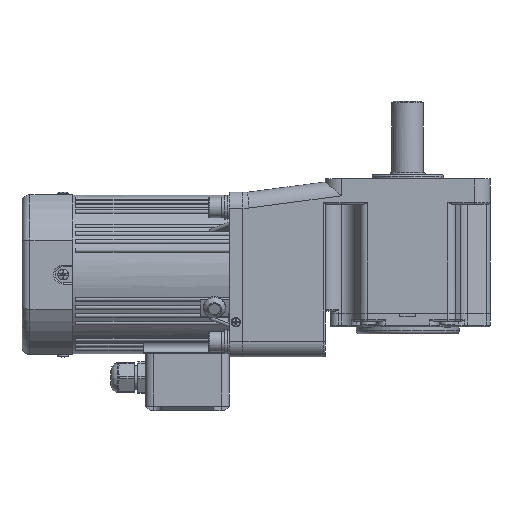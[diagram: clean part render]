
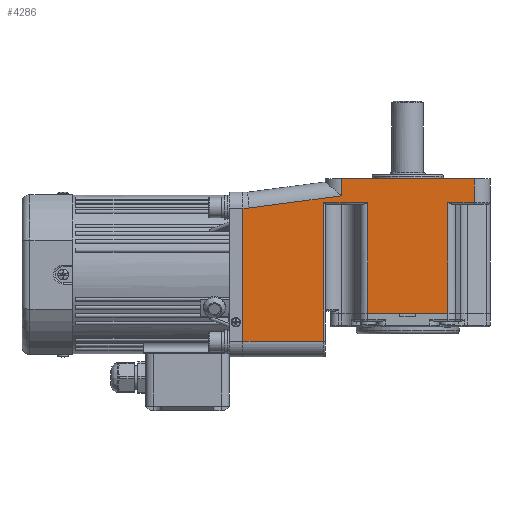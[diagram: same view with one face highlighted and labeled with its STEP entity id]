
A CAD part, front view. The second image highlights one B-rep face of the part: STEP entity #4286.
In plain terms, the highlighted planar face has unit normal (0, -1, 0).
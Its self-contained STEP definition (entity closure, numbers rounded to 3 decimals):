
#2735=FACE_OUTER_BOUND('',#11687,.T.);
#4286=ADVANCED_FACE('',(#2735),#5958,.T.);
#5958=PLANE('',#32436);
#6922=LINE('',#44805,#8741);
#6926=LINE('',#44843,#8745);
#6931=LINE('',#44890,#8750);
#7009=LINE('',#45574,#8828);
#7010=LINE('',#45579,#8829);
#7012=LINE('',#45588,#8831);
#7014=LINE('',#45594,#8833);
#7016=LINE('',#45597,#8835);
#7029=LINE('',#45638,#8848);
#7076=LINE('',#46013,#8895);
#7084=LINE('',#46028,#8903);
#7095=LINE('',#46063,#8914);
#7098=LINE('',#46071,#8917);
#8741=VECTOR('',#36022,1.);
#8745=VECTOR('',#36044,1.);
#8750=VECTOR('',#36065,1.);
#8828=VECTOR('',#36589,1.);
#8829=VECTOR('',#36594,1.);
#8831=VECTOR('',#36602,1.);
#8833=VECTOR('',#36608,1.);
#8835=VECTOR('',#36612,1.);
#8848=VECTOR('',#36651,1.);
#8895=VECTOR('',#36918,1.);
#8903=VECTOR('',#36938,1.);
#8914=VECTOR('',#36983,1.);
#8917=VECTOR('',#36992,1.);
#11687=EDGE_LOOP('',(#15257,#15258,#15259,#15260,#15261,#15262,#15263,#15264,
#15265,#15266,#15267,#15268,#15269));
#15257=ORIENTED_EDGE('',*,*,#26382,.T.);
#15258=ORIENTED_EDGE('',*,*,#25959,.T.);
#15259=ORIENTED_EDGE('',*,*,#26386,.T.);
#15260=ORIENTED_EDGE('',*,*,#25984,.T.);
#15261=ORIENTED_EDGE('',*,*,#26234,.T.);
#15262=ORIENTED_EDGE('',*,*,#26365,.F.);
#15263=ORIENTED_EDGE('',*,*,#26225,.T.);
#15264=ORIENTED_EDGE('',*,*,#26229,.T.);
#15265=ORIENTED_EDGE('',*,*,#26232,.T.);
#15266=ORIENTED_EDGE('',*,*,#26356,.F.);
#15267=ORIENTED_EDGE('',*,*,#26254,.T.);
#15268=ORIENTED_EDGE('',*,*,#26223,.T.);
#15269=ORIENTED_EDGE('',*,*,#25972,.T.);
#22794=VERTEX_POINT('',#44804);
#22795=VERTEX_POINT('',#44806);
#22806=VERTEX_POINT('',#44841);
#22808=VERTEX_POINT('',#44844);
#22814=VERTEX_POINT('',#44870);
#22817=VERTEX_POINT('',#44888);
#22983=VERTEX_POINT('',#45569);
#22985=VERTEX_POINT('',#45578);
#22986=VERTEX_POINT('',#45580);
#22989=VERTEX_POINT('',#45587);
#22990=VERTEX_POINT('',#45592);
#22992=VERTEX_POINT('',#45598);
#23007=VERTEX_POINT('',#45639);
#25959=EDGE_CURVE('',#22795,#22794,#6922,.T.);
#25972=EDGE_CURVE('',#22808,#22806,#6926,.T.);
#25984=EDGE_CURVE('',#22817,#22814,#6931,.T.);
#26223=EDGE_CURVE('',#22983,#22808,#7009,.T.);
#26225=EDGE_CURVE('',#22986,#22985,#7010,.T.);
#26229=EDGE_CURVE('',#22985,#22989,#7012,.T.);
#26232=EDGE_CURVE('',#22989,#22990,#7014,.T.);
#26234=EDGE_CURVE('',#22814,#22992,#7016,.T.);
#26254=EDGE_CURVE('',#23007,#22983,#7029,.T.);
#26356=EDGE_CURVE('',#23007,#22990,#7076,.T.);
#26365=EDGE_CURVE('',#22986,#22992,#7084,.T.);
#26382=EDGE_CURVE('',#22806,#22795,#7095,.T.);
#26386=EDGE_CURVE('',#22794,#22817,#7098,.T.);
#32436=AXIS2_PLACEMENT_3D('',#46117,#37051,#37052);
#36022=DIRECTION('',(1.,0.,0.));
#36044=DIRECTION('',(1.,0.,0.));
#36065=DIRECTION('',(1.,0.,0.));
#36589=DIRECTION('',(0.,0.,1.));
#36594=DIRECTION('',(0.,0.,-1.));
#36602=DIRECTION('',(-0.991,0.,-0.132));
#36608=DIRECTION('',(-1.,0.,0.));
#36612=DIRECTION('',(0.,0.,1.));
#36651=DIRECTION('',(1.,0.,0.));
#36918=DIRECTION('',(0.,0.,1.));
#36938=DIRECTION('',(1.,0.,0.));
#36983=DIRECTION('',(0.,0.,-1.));
#36992=DIRECTION('',(0.,0.,1.));
#37051=DIRECTION('',(0.,-1.,0.));
#37052=DIRECTION('',(0.,0.,-1.));
#44804=CARTESIAN_POINT('',(64.031,-172.671,-82.981));
#44805=CARTESIAN_POINT('',(-11.8,-172.671,-82.981));
#44806=CARTESIAN_POINT('',(13.369,-172.671,-82.981));
#44841=CARTESIAN_POINT('',(13.369,-172.671,-12.991));
#44843=CARTESIAN_POINT('',(-13.3,-172.671,-12.991));
#44844=CARTESIAN_POINT('',(-14.3,-172.671,-12.991));
#44870=CARTESIAN_POINT('',(80.7,-172.671,-12.991));
#44888=CARTESIAN_POINT('',(64.031,-172.671,-12.991));
#44890=CARTESIAN_POINT('',(-13.3,-172.671,-12.991));
#45569=CARTESIAN_POINT('',(-14.3,-172.671,-100.491));
#45574=CARTESIAN_POINT('',(-14.3,-172.671,-13.991));
#45578=CARTESIAN_POINT('',(-3.3,-172.671,-8.752));
#45579=CARTESIAN_POINT('',(-3.3,-172.671,-91.491));
#45580=CARTESIAN_POINT('',(-3.3,-172.671,2.009));
#45587=CARTESIAN_POINT('',(-61.64,-172.671,-16.491));
#45588=CARTESIAN_POINT('',(-60.985,-172.671,-16.404));
#45592=CARTESIAN_POINT('',(-65.3,-172.671,-16.491));
#45594=CARTESIAN_POINT('',(-65.3,-172.671,-16.491));
#45597=CARTESIAN_POINT('',(80.7,-172.671,-91.491));
#45598=CARTESIAN_POINT('',(80.7,-172.671,2.009));
#45638=CARTESIAN_POINT('',(-13.3,-172.671,-100.491));
#45639=CARTESIAN_POINT('',(-65.3,-172.671,-100.491));
#46013=CARTESIAN_POINT('',(-65.3,-172.671,-110.491));
#46028=CARTESIAN_POINT('',(-13.3,-172.671,2.009));
#46063=CARTESIAN_POINT('',(13.369,-172.671,-87.991));
#46071=CARTESIAN_POINT('',(64.031,-172.671,-13.991));
#46117=CARTESIAN_POINT('',(-13.3,-172.671,-91.491));
